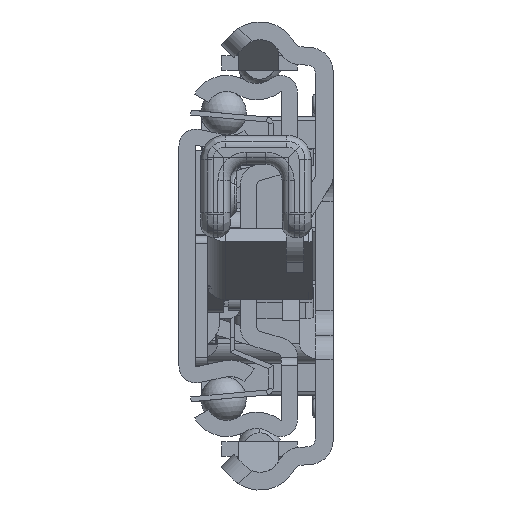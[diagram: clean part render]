
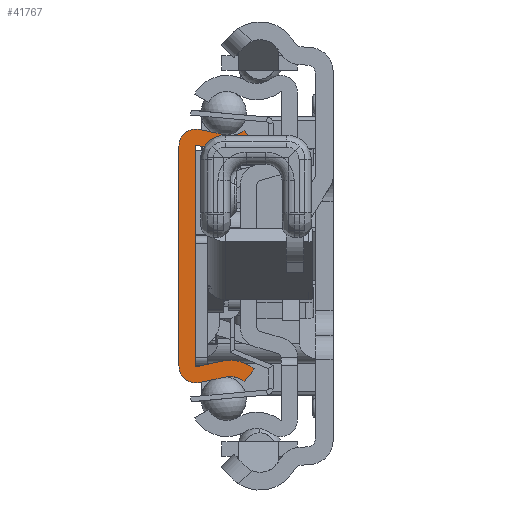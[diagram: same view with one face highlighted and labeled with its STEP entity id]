
A CAD part, left-side view. The second image highlights one B-rep face of the part: STEP entity #41767.
In plain terms, the highlighted planar face has unit normal (-1, 0, 0).
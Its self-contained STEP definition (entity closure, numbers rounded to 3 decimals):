
#37166=CARTESIAN_POINT('',(0.,-6.29,-17.65));
#37167=DIRECTION('',(-1.,0.,0.));
#37168=DIRECTION('',(0.,-0.629,0.778));
#37169=AXIS2_PLACEMENT_3D('',#37166,#37167,#37168);
#37171=DIRECTION('',(0.,0.977,-0.213));
#37172=VECTOR('',#37171,3.218);
#37173=CARTESIAN_POINT('',(0.,-5.692,-14.915));
#37174=LINE('',#37173,#37172);
#37175=CARTESIAN_POINT('',(0.,-2.1,-13.55));
#37176=DIRECTION('',(1.,0.,0.));
#37177=DIRECTION('',(0.,-0.213,-0.977));
#37178=AXIS2_PLACEMENT_3D('',#37175,#37176,#37177);
#37180=DIRECTION('',(0.,0.,1.));
#37181=VECTOR('',#37180,27.1);
#37182=CARTESIAN_POINT('',(0.,0.,-13.55));
#37183=LINE('',#37182,#37181);
#37184=CARTESIAN_POINT('',(0.,-2.1,13.55));
#37185=DIRECTION('',(1.,0.,0.));
#37186=DIRECTION('',(0.,1.,0.));
#37187=AXIS2_PLACEMENT_3D('',#37184,#37185,#37186);
#37189=DIRECTION('',(0.,-0.977,-0.213));
#37190=VECTOR('',#37189,3.218);
#37191=CARTESIAN_POINT('',(0.,-2.548,15.602));
#37192=LINE('',#37191,#37190);
#37193=CARTESIAN_POINT('',(0.,-6.29,17.65));
#37194=DIRECTION('',(-1.,0.,0.));
#37195=DIRECTION('',(0.,0.213,-0.977));
#37196=AXIS2_PLACEMENT_3D('',#37193,#37194,#37195);
#37198=DIRECTION('',(0.,-0.629,-0.778));
#37199=VECTOR('',#37198,2.);
#37200=CARTESIAN_POINT('',(0.,-8.05,15.472));
#37201=LINE('',#37200,#37199);
#37202=CARTESIAN_POINT('',(0.,-6.29,17.65));
#37203=DIRECTION('',(1.,0.,0.));
#37204=DIRECTION('',(0.,-0.629,-0.778));
#37205=AXIS2_PLACEMENT_3D('',#37202,#37203,#37204);
#37207=DIRECTION('',(0.,0.977,0.213));
#37208=VECTOR('',#37207,3.218);
#37209=CARTESIAN_POINT('',(0.,-5.265,12.961));
#37210=LINE('',#37209,#37208);
#37211=CARTESIAN_POINT('',(0.,-2.1,13.55));
#37212=DIRECTION('',(-1.,0.,0.));
#37213=DIRECTION('',(0.,-0.213,0.977));
#37214=AXIS2_PLACEMENT_3D('',#37211,#37212,#37213);
#37216=DIRECTION('',(0.,0.,-1.));
#37217=VECTOR('',#37216,27.1);
#37218=CARTESIAN_POINT('',(0.,-2.,13.55));
#37219=LINE('',#37218,#37217);
#37220=CARTESIAN_POINT('',(0.,-2.1,-13.55));
#37221=DIRECTION('',(-1.,0.,0.));
#37222=DIRECTION('',(0.,1.,0.));
#37223=AXIS2_PLACEMENT_3D('',#37220,#37221,#37222);
#37225=DIRECTION('',(0.,-0.977,0.213));
#37226=VECTOR('',#37225,3.218);
#37227=CARTESIAN_POINT('',(0.,-2.121,-13.648));
#37228=LINE('',#37227,#37226);
#37229=CARTESIAN_POINT('',(0.,-6.29,-17.65));
#37230=DIRECTION('',(1.,0.,0.));
#37231=DIRECTION('',(0.,0.213,0.977));
#37232=AXIS2_PLACEMENT_3D('',#37229,#37230,#37231);
#37234=DIRECTION('',(0.,0.629,-0.778));
#37235=VECTOR('',#37234,2.);
#37236=CARTESIAN_POINT('',(0.,-9.307,-13.917));
#37237=LINE('',#37236,#37235);
#40897=CARTESIAN_POINT('',(0.,-8.05,-15.472));
#40898=CARTESIAN_POINT('',(0.,-5.692,-14.915));
#40899=VERTEX_POINT('',#40897);
#40900=VERTEX_POINT('',#40898);
#40901=CARTESIAN_POINT('',(0.,-2.548,-15.602));
#40902=VERTEX_POINT('',#40901);
#40903=CARTESIAN_POINT('',(0.,0.,-13.55));
#40904=VERTEX_POINT('',#40903);
#40905=CARTESIAN_POINT('',(0.,0.,13.55));
#40906=VERTEX_POINT('',#40905);
#40907=CARTESIAN_POINT('',(0.,-2.548,15.602));
#40908=VERTEX_POINT('',#40907);
#40909=CARTESIAN_POINT('',(0.,-5.692,14.915));
#40910=VERTEX_POINT('',#40909);
#40911=CARTESIAN_POINT('',(0.,-8.05,15.472));
#40912=VERTEX_POINT('',#40911);
#40913=CARTESIAN_POINT('',(0.,-9.307,13.917));
#40914=VERTEX_POINT('',#40913);
#40915=CARTESIAN_POINT('',(0.,-5.265,12.961));
#40916=VERTEX_POINT('',#40915);
#40917=CARTESIAN_POINT('',(0.,-2.121,13.648));
#40918=VERTEX_POINT('',#40917);
#40919=CARTESIAN_POINT('',(0.,-2.,13.55));
#40920=VERTEX_POINT('',#40919);
#40921=CARTESIAN_POINT('',(0.,-2.,-13.55));
#40922=VERTEX_POINT('',#40921);
#40923=CARTESIAN_POINT('',(0.,-2.121,-13.648));
#40924=VERTEX_POINT('',#40923);
#40925=CARTESIAN_POINT('',(0.,-5.265,-12.961));
#40926=VERTEX_POINT('',#40925);
#40927=CARTESIAN_POINT('',(0.,-9.307,-13.917));
#40928=VERTEX_POINT('',#40927);
#41728=CARTESIAN_POINT('',(0.,0.,0.));
#41729=DIRECTION('',(1.,0.,0.));
#41730=DIRECTION('',(0.,-1.,0.));
#41731=AXIS2_PLACEMENT_3D('',#41728,#41729,#41730);
#41732=PLANE('',#41731);
#41734=ORIENTED_EDGE('',*,*,#41733,.T.);
#41736=ORIENTED_EDGE('',*,*,#41735,.T.);
#41738=ORIENTED_EDGE('',*,*,#41737,.T.);
#41740=ORIENTED_EDGE('',*,*,#41739,.T.);
#41742=ORIENTED_EDGE('',*,*,#41741,.T.);
#41744=ORIENTED_EDGE('',*,*,#41743,.T.);
#41746=ORIENTED_EDGE('',*,*,#41745,.T.);
#41748=ORIENTED_EDGE('',*,*,#41747,.T.);
#41750=ORIENTED_EDGE('',*,*,#41749,.T.);
#41752=ORIENTED_EDGE('',*,*,#41751,.T.);
#41754=ORIENTED_EDGE('',*,*,#41753,.T.);
#41756=ORIENTED_EDGE('',*,*,#41755,.T.);
#41758=ORIENTED_EDGE('',*,*,#41757,.T.);
#41760=ORIENTED_EDGE('',*,*,#41759,.T.);
#41762=ORIENTED_EDGE('',*,*,#41761,.T.);
#41764=ORIENTED_EDGE('',*,*,#41763,.T.);
#41765=EDGE_LOOP('',(#41734,#41736,#41738,#41740,#41742,#41744,#41746,#41748,
#41750,#41752,#41754,#41756,#41758,#41760,#41762,#41764));
#41766=FACE_OUTER_BOUND('',#41765,.F.);
#37170=CIRCLE('',#37169,2.8);
#37179=CIRCLE('',#37178,2.1);
#37188=CIRCLE('',#37187,2.1);
#37197=CIRCLE('',#37196,2.8);
#37206=CIRCLE('',#37205,4.8);
#37215=CIRCLE('',#37214,0.1);
#37224=CIRCLE('',#37223,0.1);
#37233=CIRCLE('',#37232,4.8);
#41733=EDGE_CURVE('',#40899,#40900,#37170,.T.);
#41735=EDGE_CURVE('',#40900,#40902,#37174,.T.);
#41737=EDGE_CURVE('',#40902,#40904,#37179,.T.);
#41739=EDGE_CURVE('',#40904,#40906,#37183,.T.);
#41741=EDGE_CURVE('',#40906,#40908,#37188,.T.);
#41743=EDGE_CURVE('',#40908,#40910,#37192,.T.);
#41745=EDGE_CURVE('',#40910,#40912,#37197,.T.);
#41747=EDGE_CURVE('',#40912,#40914,#37201,.T.);
#41749=EDGE_CURVE('',#40914,#40916,#37206,.T.);
#41751=EDGE_CURVE('',#40916,#40918,#37210,.T.);
#41753=EDGE_CURVE('',#40918,#40920,#37215,.T.);
#41755=EDGE_CURVE('',#40920,#40922,#37219,.T.);
#41757=EDGE_CURVE('',#40922,#40924,#37224,.T.);
#41759=EDGE_CURVE('',#40924,#40926,#37228,.T.);
#41761=EDGE_CURVE('',#40926,#40928,#37233,.T.);
#41763=EDGE_CURVE('',#40928,#40899,#37237,.T.);
#41767=ADVANCED_FACE('',(#41766),#41732,.F.);
